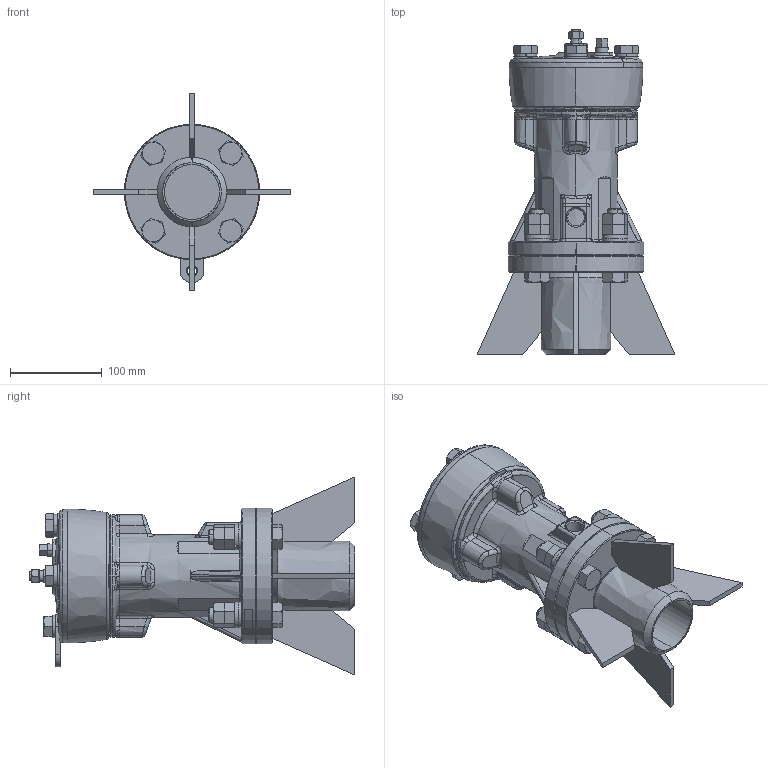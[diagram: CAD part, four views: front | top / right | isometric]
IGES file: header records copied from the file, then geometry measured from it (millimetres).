
Start section: SolidWorks IGES file using analytic representation for surfaces
Global section: file name: V:\WORK\08133\HP 寸法図\knocker\RKV80PA\test_A43000L-000 RKV80PA_defeature.IGS,15; native system: HSolidWorks 2018; preprocessor: SolidWorks 2018; author: n-udagawa; date: 230117.090150; units: millimetre
Bounding box: 216 x 355.6 x 216 mm (x, y, z)
Surface area: 249482.9 mm2 (no closed solid volume)
Topology: 0 solids, 0 shells, 772 faces, 12126 edges, 13981 vertices
Faces by surface type: bspline 481, revolution 291
